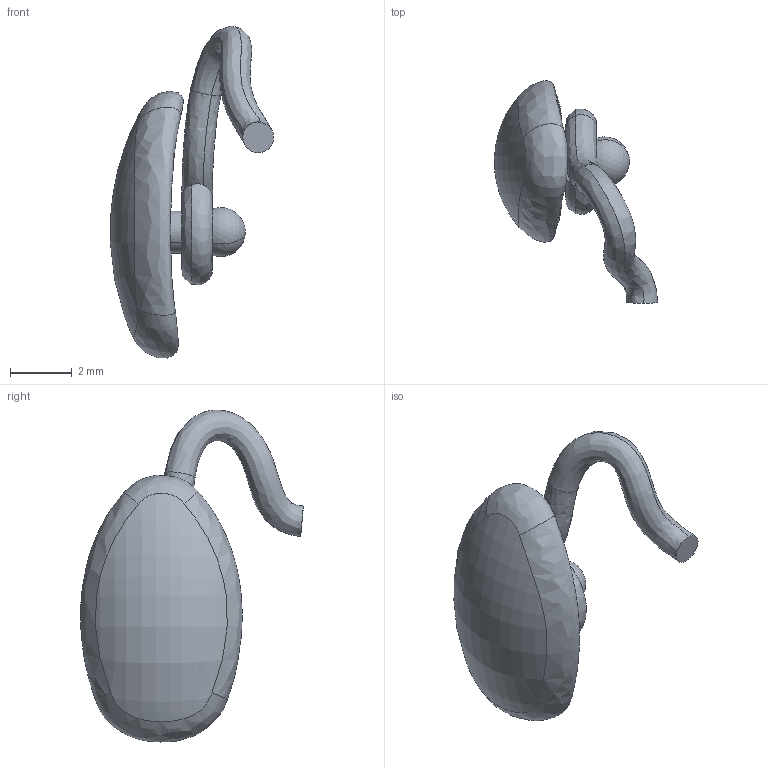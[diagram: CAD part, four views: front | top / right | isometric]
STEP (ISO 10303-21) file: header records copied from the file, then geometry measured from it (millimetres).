
FILE_DESCRIPTION(/* description */ (''),/* implementation_level */ '2;1');
FILE_NAME(/* name */ 'nose_pad_right.stp',/* time_stamp */ '2010-06-01T19:02:49+08:00',/* author */ (''),/* organization */ (''),/* preprocessor_version */ 'ST-DEVELOPER v11',/* originating_system */ 'SIEMENS UGS NX 6.0',/* authorisation */ '');
FILE_SCHEMA (('CONFIG_CONTROL_DESIGN'));
Length unit declared in the file: millimetre
Products named in the file (1): model1
Bounding box: 5.3 x 7.24 x 10.78 mm (x, y, z)
Volume: 66 mm3; surface area: 159.7 mm2
Topology: 2 solids, 2 shells, 18 faces, 36 edges, 21 vertices
Faces by surface type: bspline 10, sphere 2, cylinder 2, plane 2, revolution 1, torus 1
Entity records: 1535 total; most frequent: CARTESIAN_POINT 1151, ORIENTED_EDGE 68, DIRECTION 43, EDGE_CURVE 34, B_SPLINE_CURVE_WITH_KNOTS 21, VERTEX_POINT 21, AXIS2_PLACEMENT_3D 20, EDGE_LOOP 19
